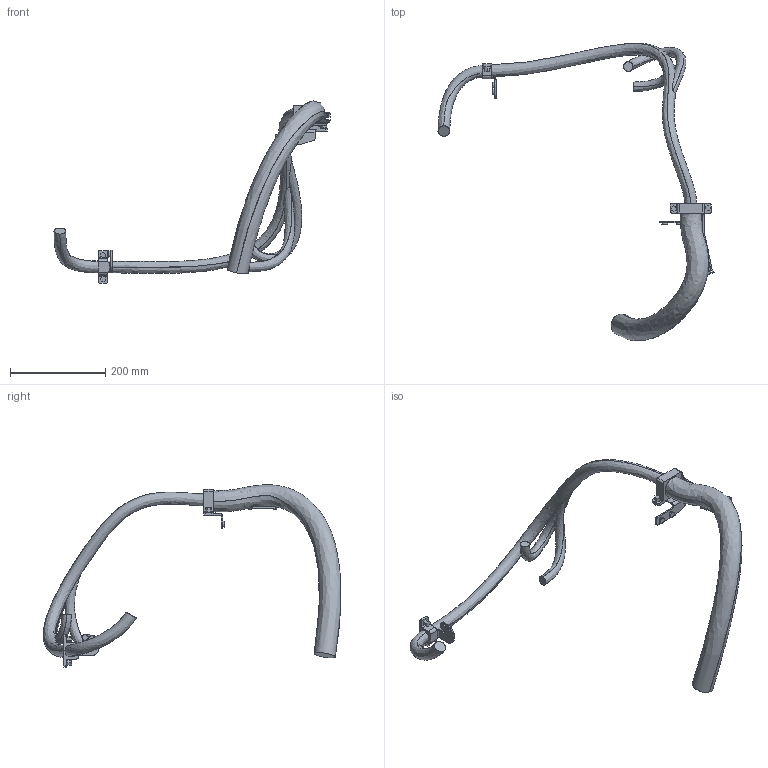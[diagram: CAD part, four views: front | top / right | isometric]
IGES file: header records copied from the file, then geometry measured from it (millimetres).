
Start section: SolidWorks IGES file using analytic representation for surfaces
Global section: file name: C:\Users\SEALDUN\OneDrive - ABB\Documents\R&D Robotics\Work Items\WI 632927 light weight hole removal\IGES\IRB5720-LID-MH_90kg-300_OC_03_IGES_J\IRB5720-LID_90kg-300_OmniCore_rev00_LINK03m_CABLE.igs; native system: SolidWorks 2024; preprocessor: SolidWorks 2024; author: SEALDUN; date: 250708.123113; units: millimetre
Bounding box: 579.39 x 624.55 x 382.77 mm (x, y, z)
Surface area: 226050 mm2 (no closed solid volume)
Topology: 0 solids, 0 shells, 248 faces, 3134 edges, 3134 vertices
Faces by surface type: bspline 164, revolution 84
